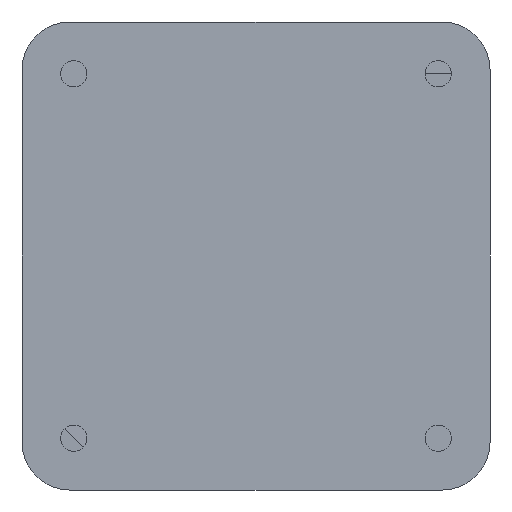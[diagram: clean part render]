
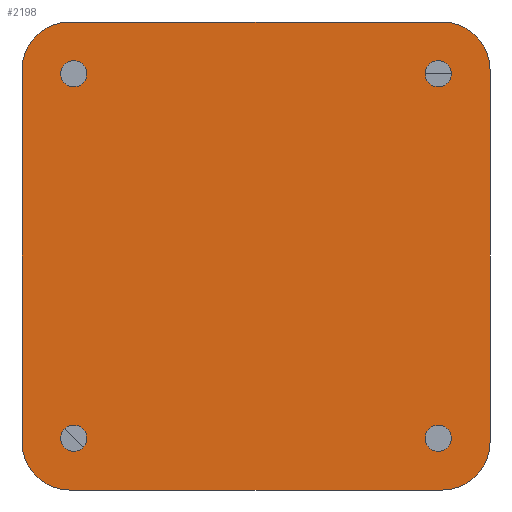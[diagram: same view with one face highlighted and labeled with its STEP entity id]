
A CAD part, front view. The second image highlights one B-rep face of the part: STEP entity #2198.
In plain terms, the highlighted planar face has unit normal (0, -1, 0) as drawn and (0, 1, 0) by its records, which use the part's own axes.
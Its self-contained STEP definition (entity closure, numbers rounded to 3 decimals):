
#9 = CARTESIAN_POINT ( 'NONE',  ( 38.9, 15.8, 38.9 ) ) ;
#40 = CARTESIAN_POINT ( 'NONE',  ( 0., 15.8, 0. ) ) ;
#187 = DIRECTION ( 'NONE',  ( 0., -1., 0. ) ) ;
#491 = CARTESIAN_POINT ( 'NONE',  ( -38.9, 15.8, -48.9 ) ) ;
#528 = CARTESIAN_POINT ( 'NONE',  ( -48.9, 15.8, 38.9 ) ) ;
#551 = AXIS2_PLACEMENT_3D ( 'NONE', #11541, #10086, #15459 ) ;
#658 = CARTESIAN_POINT ( 'NONE',  ( 38.1, 15.8, 35.35 ) ) ;
#708 = EDGE_LOOP ( 'NONE', ( #9820, #12507 ) ) ;
#889 = VERTEX_POINT ( 'NONE', #12903 ) ;
#1096 = CARTESIAN_POINT ( 'NONE',  ( -38.1, 15.8, -35.35 ) ) ;
#1202 = DIRECTION ( 'NONE',  ( 0., 0., -1. ) ) ;
#1381 = DIRECTION ( 'NONE',  ( 0., 0., 1. ) ) ;
#1529 = DIRECTION ( 'NONE',  ( 0., 1., 0. ) ) ;
#1597 = EDGE_CURVE ( 'NONE', #7356, #3477, #7134, .T. ) ;
#1761 = CARTESIAN_POINT ( 'NONE',  ( 38.1, 15.8, -38.1 ) ) ;
#1771 = VERTEX_POINT ( 'NONE', #8038 ) ;
#1850 = DIRECTION ( 'NONE',  ( 0., 1., 0. ) ) ;
#1855 = AXIS2_PLACEMENT_3D ( 'NONE', #6299, #10460, #7801 ) ;
#1868 = CIRCLE ( 'NONE', #6575, 2.75 ) ;
#2143 = CARTESIAN_POINT ( 'NONE',  ( -38.1, 15.8, -40.85 ) ) ;
#2198 = ADVANCED_FACE ( 'NONE', ( #3768, #17165, #11097, #2701, #16543 ), #14791, .F. ) ;
#2211 = CARTESIAN_POINT ( 'NONE',  ( 38.9, 15.8, -48.9 ) ) ;
#2498 = ORIENTED_EDGE ( 'NONE', *, *, #7965, .F. ) ;
#2578 = LINE ( 'NONE', #12050, #16427 ) ;
#2589 = DIRECTION ( 'NONE',  ( 0., 0., -1. ) ) ;
#2701 = FACE_BOUND ( 'NONE', #7096, .T. ) ;
#2722 = EDGE_CURVE ( 'NONE', #4318, #17110, #1868, .T. ) ;
#3067 = EDGE_CURVE ( 'NONE', #7982, #5267, #10446, .T. ) ;
#3142 = VERTEX_POINT ( 'NONE', #13313 ) ;
#3382 = VERTEX_POINT ( 'NONE', #8837 ) ;
#3477 = VERTEX_POINT ( 'NONE', #7658 ) ;
#3704 = CARTESIAN_POINT ( 'NONE',  ( 38.1, 15.8, 38.1 ) ) ;
#3768 = FACE_BOUND ( 'NONE', #708, .T. ) ;
#4027 = CARTESIAN_POINT ( 'NONE',  ( 48.9, 15.8, -38.9 ) ) ;
#4280 = EDGE_LOOP ( 'NONE', ( #8331, #4657 ) ) ;
#4318 = VERTEX_POINT ( 'NONE', #1096 ) ;
#4657 = ORIENTED_EDGE ( 'NONE', *, *, #11221, .F. ) ;
#4675 = ORIENTED_EDGE ( 'NONE', *, *, #12251, .F. ) ;
#4686 = ORIENTED_EDGE ( 'NONE', *, *, #3067, .F. ) ;
#4883 = AXIS2_PLACEMENT_3D ( 'NONE', #40, #6908, #8256 ) ;
#5043 = CARTESIAN_POINT ( 'NONE',  ( 38.1, 15.8, -35.35 ) ) ;
#5267 = VERTEX_POINT ( 'NONE', #658 ) ;
#5289 = EDGE_CURVE ( 'NONE', #5267, #7982, #17325, .T. ) ;
#5464 = CARTESIAN_POINT ( 'NONE',  ( -38.1, 15.8, 38.1 ) ) ;
#5569 = CARTESIAN_POINT ( 'NONE',  ( 0., 15.8, -48.9 ) ) ;
#5667 = ORIENTED_EDGE ( 'NONE', *, *, #2722, .F. ) ;
#5707 = ORIENTED_EDGE ( 'NONE', *, *, #16816, .F. ) ;
#5817 = DIRECTION ( 'NONE',  ( 0., 1., 0. ) ) ;
#5864 = DIRECTION ( 'NONE',  ( 0., 0., 1. ) ) ;
#5897 = LINE ( 'NONE', #8440, #6724 ) ;
#5936 = CIRCLE ( 'NONE', #551, 10. ) ;
#6016 = VERTEX_POINT ( 'NONE', #491 ) ;
#6039 = CARTESIAN_POINT ( 'NONE',  ( 38.1, 15.8, 40.85 ) ) ;
#6043 = DIRECTION ( 'NONE',  ( 0., 0., -1. ) ) ;
#6299 = CARTESIAN_POINT ( 'NONE',  ( -38.1, 15.8, 38.1 ) ) ;
#6368 = CARTESIAN_POINT ( 'NONE',  ( 0., 15.8, 48.9 ) ) ;
#6527 = CARTESIAN_POINT ( 'NONE',  ( -38.1, 15.8, 40.85 ) ) ;
#6575 = AXIS2_PLACEMENT_3D ( 'NONE', #9877, #1850, #11224 ) ;
#6724 = VECTOR ( 'NONE', #5864, 1000. ) ;
#6808 = AXIS2_PLACEMENT_3D ( 'NONE', #17317, #9189, #1381 ) ;
#6820 = VERTEX_POINT ( 'NONE', #4027 ) ;
#6908 = DIRECTION ( 'NONE',  ( 0., -1., 0. ) ) ;
#7096 = EDGE_LOOP ( 'NONE', ( #5667, #2498 ) ) ;
#7134 = CIRCLE ( 'NONE', #1855, 2.75 ) ;
#7356 = VERTEX_POINT ( 'NONE', #6527 ) ;
#7611 = EDGE_LOOP ( 'NONE', ( #4675, #8657, #8199, #5707, #8107, #10253, #11388, #13743 ) ) ;
#7658 = CARTESIAN_POINT ( 'NONE',  ( -38.1, 15.8, 35.35 ) ) ;
#7801 = DIRECTION ( 'NONE',  ( 0., 0., 1. ) ) ;
#7965 = EDGE_CURVE ( 'NONE', #17110, #4318, #10162, .T. ) ;
#7982 = VERTEX_POINT ( 'NONE', #6039 ) ;
#8038 = CARTESIAN_POINT ( 'NONE',  ( 38.1, 15.8, -40.85 ) ) ;
#8107 = ORIENTED_EDGE ( 'NONE', *, *, #13114, .F. ) ;
#8199 = ORIENTED_EDGE ( 'NONE', *, *, #11153, .F. ) ;
#8213 = CIRCLE ( 'NONE', #10002, 2.75 ) ;
#8256 = DIRECTION ( 'NONE',  ( 0., 0., -1. ) ) ;
#8331 = ORIENTED_EDGE ( 'NONE', *, *, #1597, .F. ) ;
#8440 = CARTESIAN_POINT ( 'NONE',  ( 48.9, 15.8, 0. ) ) ;
#8464 = CIRCLE ( 'NONE', #17367, 2.75 ) ;
#8657 = ORIENTED_EDGE ( 'NONE', *, *, #16158, .F. ) ;
#8779 = AXIS2_PLACEMENT_3D ( 'NONE', #3704, #11668, #12993 ) ;
#8837 = CARTESIAN_POINT ( 'NONE',  ( -48.9, 15.8, -38.9 ) ) ;
#8964 = AXIS2_PLACEMENT_3D ( 'NONE', #5464, #1529, #10796 ) ;
#8969 = DIRECTION ( 'NONE',  ( 0., 0., 1. ) ) ;
#9189 = DIRECTION ( 'NONE',  ( 0., 1., 0. ) ) ;
#9215 = CARTESIAN_POINT ( 'NONE',  ( 38.9, 15.8, -38.9 ) ) ;
#9820 = ORIENTED_EDGE ( 'NONE', *, *, #13311, .F. ) ;
#9877 = CARTESIAN_POINT ( 'NONE',  ( -38.1, 15.8, -38.1 ) ) ;
#10002 = AXIS2_PLACEMENT_3D ( 'NONE', #1761, #5817, #13867 ) ;
#10086 = DIRECTION ( 'NONE',  ( 0., -1., 0. ) ) ;
#10094 = DIRECTION ( 'NONE',  ( 0., -1., 0. ) ) ;
#10162 = CIRCLE ( 'NONE', #16223, 2.75 ) ;
#10253 = ORIENTED_EDGE ( 'NONE', *, *, #13411, .F. ) ;
#10358 = AXIS2_PLACEMENT_3D ( 'NONE', #9, #187, #12029 ) ;
#10446 = CIRCLE ( 'NONE', #6808, 2.75 ) ;
#10460 = DIRECTION ( 'NONE',  ( 0., 1., 0. ) ) ;
#10796 = DIRECTION ( 'NONE',  ( 0., 0., 1. ) ) ;
#10815 = VECTOR ( 'NONE', #17072, 1000. ) ;
#10874 = EDGE_CURVE ( 'NONE', #15097, #3142, #16888, .T. ) ;
#11097 = FACE_BOUND ( 'NONE', #4280, .T. ) ;
#11126 = DIRECTION ( 'NONE',  ( 1., 0., 0. ) ) ;
#11153 = EDGE_CURVE ( 'NONE', #12000, #6820, #14748, .T. ) ;
#11221 = EDGE_CURVE ( 'NONE', #3477, #7356, #16872, .T. ) ;
#11224 = DIRECTION ( 'NONE',  ( 0., 0., 1. ) ) ;
#11388 = ORIENTED_EDGE ( 'NONE', *, *, #14695, .F. ) ;
#11541 = CARTESIAN_POINT ( 'NONE',  ( -38.9, 15.8, -38.9 ) ) ;
#11543 = CARTESIAN_POINT ( 'NONE',  ( -38.1, 15.8, -38.1 ) ) ;
#11668 = DIRECTION ( 'NONE',  ( 0., 1., 0. ) ) ;
#12000 = VERTEX_POINT ( 'NONE', #2211 ) ;
#12029 = DIRECTION ( 'NONE',  ( 0., 0., -1. ) ) ;
#12050 = CARTESIAN_POINT ( 'NONE',  ( -48.9, 15.8, 0. ) ) ;
#12209 = AXIS2_PLACEMENT_3D ( 'NONE', #9215, #14567, #2589 ) ;
#12251 = EDGE_CURVE ( 'NONE', #889, #15097, #12452, .T. ) ;
#12452 = CIRCLE ( 'NONE', #10358, 10. ) ;
#12507 = ORIENTED_EDGE ( 'NONE', *, *, #14339, .F. ) ;
#12903 = CARTESIAN_POINT ( 'NONE',  ( 48.9, 15.8, 38.9 ) ) ;
#12911 = AXIS2_PLACEMENT_3D ( 'NONE', #15351, #10094, #6043 ) ;
#12993 = DIRECTION ( 'NONE',  ( 0., 0., 1. ) ) ;
#13052 = VERTEX_POINT ( 'NONE', #528 ) ;
#13114 = EDGE_CURVE ( 'NONE', #3382, #6016, #5936, .T. ) ;
#13311 = EDGE_CURVE ( 'NONE', #14175, #1771, #8464, .T. ) ;
#13313 = CARTESIAN_POINT ( 'NONE',  ( -38.9, 15.8, 48.9 ) ) ;
#13411 = EDGE_CURVE ( 'NONE', #13052, #3382, #2578, .T. ) ;
#13443 = DIRECTION ( 'NONE',  ( 0., 1., 0. ) ) ;
#13559 = CARTESIAN_POINT ( 'NONE',  ( 38.9, 15.8, 48.9 ) ) ;
#13743 = ORIENTED_EDGE ( 'NONE', *, *, #10874, .F. ) ;
#13867 = DIRECTION ( 'NONE',  ( 0., 0., 1. ) ) ;
#14175 = VERTEX_POINT ( 'NONE', #5043 ) ;
#14225 = VECTOR ( 'NONE', #11126, 1000. ) ;
#14339 = EDGE_CURVE ( 'NONE', #1771, #14175, #8213, .T. ) ;
#14567 = DIRECTION ( 'NONE',  ( 0., -1., 0. ) ) ;
#14633 = ORIENTED_EDGE ( 'NONE', *, *, #5289, .F. ) ;
#14695 = EDGE_CURVE ( 'NONE', #3142, #13052, #17001, .T. ) ;
#14748 = CIRCLE ( 'NONE', #12209, 10. ) ;
#14791 = PLANE ( 'NONE',  #4883 ) ;
#15097 = VERTEX_POINT ( 'NONE', #13559 ) ;
#15351 = CARTESIAN_POINT ( 'NONE',  ( -38.9, 15.8, 38.9 ) ) ;
#15459 = DIRECTION ( 'NONE',  ( 0., 0., -1. ) ) ;
#15921 = DIRECTION ( 'NONE',  ( 0., 0., 1. ) ) ;
#16158 = EDGE_CURVE ( 'NONE', #6820, #889, #5897, .T. ) ;
#16223 = AXIS2_PLACEMENT_3D ( 'NONE', #11543, #16921, #8969 ) ;
#16427 = VECTOR ( 'NONE', #1202, 1000. ) ;
#16543 = FACE_OUTER_BOUND ( 'NONE', #7611, .T. ) ;
#16788 = EDGE_LOOP ( 'NONE', ( #4686, #14633 ) ) ;
#16816 = EDGE_CURVE ( 'NONE', #6016, #12000, #17188, .T. ) ;
#16872 = CIRCLE ( 'NONE', #8964, 2.75 ) ;
#16888 = LINE ( 'NONE', #6368, #10815 ) ;
#16921 = DIRECTION ( 'NONE',  ( 0., 1., 0. ) ) ;
#17001 = CIRCLE ( 'NONE', #12911, 10. ) ;
#17072 = DIRECTION ( 'NONE',  ( -1., 0., 0. ) ) ;
#17110 = VERTEX_POINT ( 'NONE', #2143 ) ;
#17165 = FACE_BOUND ( 'NONE', #16788, .T. ) ;
#17188 = LINE ( 'NONE', #5569, #14225 ) ;
#17201 = CARTESIAN_POINT ( 'NONE',  ( 38.1, 15.8, -38.1 ) ) ;
#17317 = CARTESIAN_POINT ( 'NONE',  ( 38.1, 15.8, 38.1 ) ) ;
#17325 = CIRCLE ( 'NONE', #8779, 2.75 ) ;
#17367 = AXIS2_PLACEMENT_3D ( 'NONE', #17201, #13443, #15921 ) ;
